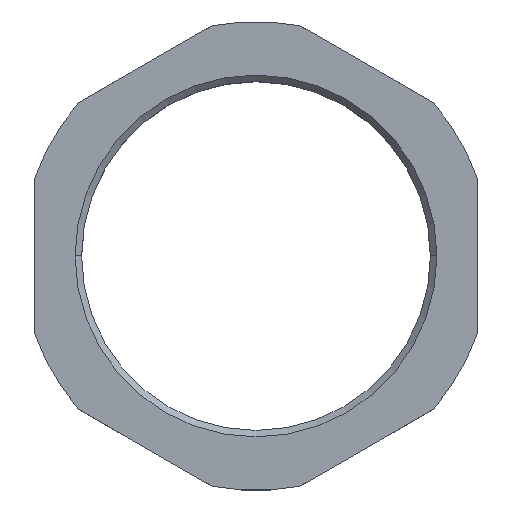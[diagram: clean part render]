
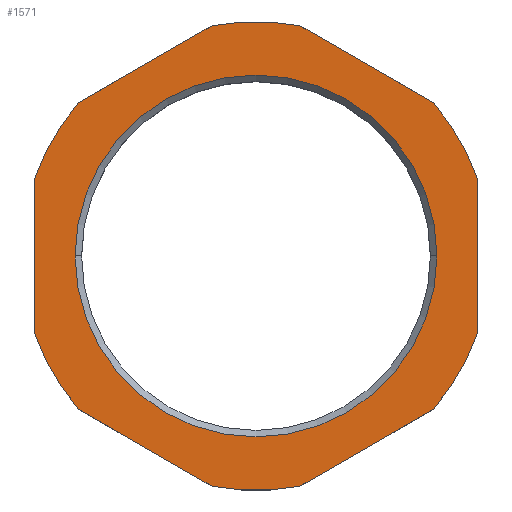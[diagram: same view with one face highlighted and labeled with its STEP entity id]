
A CAD part, top view. The second image highlights one B-rep face of the part: STEP entity #1571.
In plain terms, the highlighted planar face has unit normal (0, 0, 1).
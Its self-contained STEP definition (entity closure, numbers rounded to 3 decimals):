
#454 = CARTESIAN_POINT ( 'NONE',  ( 3.377, 17.68, 0. ) ) ;
#489 = CARTESIAN_POINT ( 'NONE',  ( 13.623, 11.764, 0. ) ) ;
#522 = VECTOR ( 'NONE', #526, 1000. ) ;
#523 = CARTESIAN_POINT ( 'NONE',  ( 17., 9.815, 0. ) ) ;
#526 = DIRECTION ( 'NONE',  ( -0.866, 0.5, 0. ) ) ;
#560 = LINE ( 'NONE', #523, #522 ) ;
#580 = CIRCLE ( 'NONE', #585, 18. ) ;
#585 = AXIS2_PLACEMENT_3D ( 'NONE', #596, #595, #594 ) ;
#594 = DIRECTION ( 'NONE',  ( 1., 0., 0. ) ) ;
#595 = DIRECTION ( 'NONE',  ( 0., 0., 1. ) ) ;
#596 = CARTESIAN_POINT ( 'NONE',  ( 0., 0., 0. ) ) ;
#597 = DIRECTION ( 'NONE',  ( 1., 0., 0. ) ) ;
#598 = DIRECTION ( 'NONE',  ( 0., 0., 1. ) ) ;
#603 = CARTESIAN_POINT ( 'NONE',  ( 0., 0., 0. ) ) ;
#604 = AXIS2_PLACEMENT_3D ( 'NONE', #603, #598, #597 ) ;
#605 = CIRCLE ( 'NONE', #604, 18. ) ;
#752 = DIRECTION ( 'NONE',  ( 0., 0., 1. ) ) ;
#755 = DIRECTION ( 'NONE',  ( -0.866, -0.5, 0. ) ) ;
#756 = VECTOR ( 'NONE', #755, 1000. ) ;
#757 = DIRECTION ( 'NONE',  ( 1., 0., 0. ) ) ;
#882 = AXIS2_PLACEMENT_3D ( 'NONE', #895, #889, #888 ) ;
#883 = CIRCLE ( 'NONE', #882, 13.89 ) ;
#885 = CARTESIAN_POINT ( 'NONE',  ( 13.89, 0., 0. ) ) ;
#888 = DIRECTION ( 'NONE',  ( -1., 0., 0. ) ) ;
#889 = DIRECTION ( 'NONE',  ( 0., 0., -1. ) ) ;
#895 = CARTESIAN_POINT ( 'NONE',  ( 0., 0., 0. ) ) ;
#913 = CARTESIAN_POINT ( 'NONE',  ( -13.89, 0., 0. ) ) ;
#917 = CARTESIAN_POINT ( 'NONE',  ( 17., 5.916, 0. ) ) ;
#922 = CARTESIAN_POINT ( 'NONE',  ( 17., -5.916, 0. ) ) ;
#923 = DIRECTION ( 'NONE',  ( 0., 1., 0. ) ) ;
#924 = VECTOR ( 'NONE', #923, 1000. ) ;
#925 = CARTESIAN_POINT ( 'NONE',  ( 17., -9.815, 0. ) ) ;
#951 = LINE ( 'NONE', #925, #924 ) ;
#973 = CARTESIAN_POINT ( 'NONE',  ( 0., 0., 0. ) ) ;
#974 = DIRECTION ( 'NONE',  ( 1., 0., 0. ) ) ;
#975 = DIRECTION ( 'NONE',  ( 0., 0., 1. ) ) ;
#976 = CIRCLE ( 'NONE', #977, 18. ) ;
#977 = AXIS2_PLACEMENT_3D ( 'NONE', #973, #975, #974 ) ;
#979 = CARTESIAN_POINT ( 'NONE',  ( 3.377, -17.68, 0. ) ) ;
#980 = DIRECTION ( 'NONE',  ( 0.866, 0.5, 0. ) ) ;
#981 = VECTOR ( 'NONE', #980, 1000. ) ;
#982 = CARTESIAN_POINT ( 'NONE',  ( 0., -19.63, 0. ) ) ;
#983 = LINE ( 'NONE', #982, #981 ) ;
#984 = DIRECTION ( 'NONE',  ( 1., 0., 0. ) ) ;
#985 = DIRECTION ( 'NONE',  ( 0., 0., 1. ) ) ;
#986 = CARTESIAN_POINT ( 'NONE',  ( 0., 0., 0. ) ) ;
#987 = AXIS2_PLACEMENT_3D ( 'NONE', #986, #985, #984 ) ;
#988 = CIRCLE ( 'NONE', #987, 18. ) ;
#989 = DIRECTION ( 'NONE',  ( 0.866, -0.5, 0. ) ) ;
#990 = VECTOR ( 'NONE', #989, 1000. ) ;
#991 = CARTESIAN_POINT ( 'NONE',  ( -17., -5.916, 0. ) ) ;
#992 = CARTESIAN_POINT ( 'NONE',  ( 0., 0., 0. ) ) ;
#993 = AXIS2_PLACEMENT_3D ( 'NONE', #992, #752, #757 ) ;
#994 = CIRCLE ( 'NONE', #993, 18. ) ;
#995 = VECTOR ( 'NONE', #1000, 1000. ) ;
#996 = LINE ( 'NONE', #998, #990 ) ;
#997 = CARTESIAN_POINT ( 'NONE',  ( -3.377, -17.68, 0. ) ) ;
#998 = CARTESIAN_POINT ( 'NONE',  ( -17., -9.815, 0. ) ) ;
#999 = CARTESIAN_POINT ( 'NONE',  ( -13.623, -11.764, 0. ) ) ;
#1000 = DIRECTION ( 'NONE',  ( 0., -1., 0. ) ) ;
#1001 = CARTESIAN_POINT ( 'NONE',  ( -17., 9.815, 0. ) ) ;
#1002 = LINE ( 'NONE', #1001, #995 ) ;
#1003 = DIRECTION ( 'NONE',  ( 0., 0., -1. ) ) ;
#1004 = CARTESIAN_POINT ( 'NONE',  ( 0., 0., 0. ) ) ;
#1005 = AXIS2_PLACEMENT_3D ( 'NONE', #1004, #1003, #1008 ) ;
#1006 = CIRCLE ( 'NONE', #1005, 13.89 ) ;
#1007 = CARTESIAN_POINT ( 'NONE',  ( -3.377, 17.68, 0. ) ) ;
#1008 = DIRECTION ( 'NONE',  ( -1., 0., 0. ) ) ;
#1009 = CARTESIAN_POINT ( 'NONE',  ( -17., 5.916, 0. ) ) ;
#1010 = CARTESIAN_POINT ( 'NONE',  ( 0., 19.63, 0. ) ) ;
#1011 = LINE ( 'NONE', #1010, #756 ) ;
#1012 = AXIS2_PLACEMENT_3D ( 'NONE', #1024, #1021, #1016 ) ;
#1015 = FACE_OUTER_BOUND ( 'NONE', #1565, .T. ) ;
#1016 = DIRECTION ( 'NONE',  ( -1., 0., 0. ) ) ;
#1017 = PLANE ( 'NONE',  #1012 ) ;
#1021 = DIRECTION ( 'NONE',  ( 0., 0., -1. ) ) ;
#1022 = FACE_BOUND ( 'NONE', #1572, .T. ) ;
#1024 = CARTESIAN_POINT ( 'NONE',  ( 0., 0., 0. ) ) ;
#1029 = CARTESIAN_POINT ( 'NONE',  ( -13.623, 11.764, 0. ) ) ;
#1517 = VERTEX_POINT ( 'NONE', #913 ) ;
#1519 = EDGE_CURVE ( 'NONE', #1520, #1517, #883, .T. ) ;
#1520 = VERTEX_POINT ( 'NONE', #885 ) ;
#1537 = VERTEX_POINT ( 'NONE', #917 ) ;
#1539 = EDGE_CURVE ( 'NONE', #1540, #1537, #951, .T. ) ;
#1540 = VERTEX_POINT ( 'NONE', #922 ) ;
#1548 = EDGE_CURVE ( 'NONE', #1555, #1557, #976, .T. ) ;
#1549 = EDGE_CURVE ( 'NONE', #1561, #1550, #988, .T. ) ;
#1550 = VERTEX_POINT ( 'NONE', #979 ) ;
#1551 = ORIENTED_EDGE ( 'NONE', *, *, #1552, .T. ) ;
#1552 = EDGE_CURVE ( 'NONE', #1550, #1629, #983, .T. ) ;
#1553 = ORIENTED_EDGE ( 'NONE', *, *, #1549, .T. ) ;
#1554 = ORIENTED_EDGE ( 'NONE', *, *, #1562, .T. ) ;
#1555 = VERTEX_POINT ( 'NONE', #991 ) ;
#1556 = ORIENTED_EDGE ( 'NONE', *, *, #1548, .T. ) ;
#1557 = VERTEX_POINT ( 'NONE', #999 ) ;
#1558 = ORIENTED_EDGE ( 'NONE', *, *, #1563, .T. ) ;
#1559 = ORIENTED_EDGE ( 'NONE', *, *, #1560, .T. ) ;
#1560 = EDGE_CURVE ( 'NONE', #1557, #1561, #996, .T. ) ;
#1561 = VERTEX_POINT ( 'NONE', #997 ) ;
#1562 = EDGE_CURVE ( 'NONE', #1564, #1555, #1002, .T. ) ;
#1563 = EDGE_CURVE ( 'NONE', #1575, #1564, #994, .T. ) ;
#1564 = VERTEX_POINT ( 'NONE', #1009 ) ;
#1565 = EDGE_LOOP ( 'NONE', ( #1569, #1558, #1554, #1556, #1559, #1553, #1551, #1633, #1954, #1955, #2000, #2026 ) ) ;
#1566 = VERTEX_POINT ( 'NONE', #1007 ) ;
#1567 = ORIENTED_EDGE ( 'NONE', *, *, #1568, .T. ) ;
#1568 = EDGE_CURVE ( 'NONE', #1517, #1520, #1006, .T. ) ;
#1569 = ORIENTED_EDGE ( 'NONE', *, *, #1570, .T. ) ;
#1570 = EDGE_CURVE ( 'NONE', #1566, #1575, #1011, .T. ) ;
#1571 = ADVANCED_FACE ( 'NONE', ( #1022, #1015 ), #1017, .F. ) ;
#1572 = EDGE_LOOP ( 'NONE', ( #1573, #1567 ) ) ;
#1573 = ORIENTED_EDGE ( 'NONE', *, *, #1519, .T. ) ;
#1575 = VERTEX_POINT ( 'NONE', #1029 ) ;
#1629 = VERTEX_POINT ( 'NONE', #1726 ) ;
#1633 = ORIENTED_EDGE ( 'NONE', *, *, #1634, .T. ) ;
#1634 = EDGE_CURVE ( 'NONE', #1629, #1540, #1705, .T. ) ;
#1690 = DIRECTION ( 'NONE',  ( 1., 0., 0. ) ) ;
#1691 = DIRECTION ( 'NONE',  ( 0., 0., 1. ) ) ;
#1703 = CARTESIAN_POINT ( 'NONE',  ( 0., 0., 0. ) ) ;
#1704 = AXIS2_PLACEMENT_3D ( 'NONE', #1703, #1691, #1690 ) ;
#1705 = CIRCLE ( 'NONE', #1704, 18. ) ;
#1726 = CARTESIAN_POINT ( 'NONE',  ( 13.623, -11.764, 0. ) ) ;
#1954 = ORIENTED_EDGE ( 'NONE', *, *, #1539, .T. ) ;
#1955 = ORIENTED_EDGE ( 'NONE', *, *, #1956, .T. ) ;
#1956 = EDGE_CURVE ( 'NONE', #1537, #1978, #580, .T. ) ;
#1971 = VERTEX_POINT ( 'NONE', #454 ) ;
#1978 = VERTEX_POINT ( 'NONE', #489 ) ;
#2000 = ORIENTED_EDGE ( 'NONE', *, *, #2001, .T. ) ;
#2001 = EDGE_CURVE ( 'NONE', #1978, #1971, #560, .T. ) ;
#2026 = ORIENTED_EDGE ( 'NONE', *, *, #2039, .T. ) ;
#2039 = EDGE_CURVE ( 'NONE', #1971, #1566, #605, .T. ) ;
